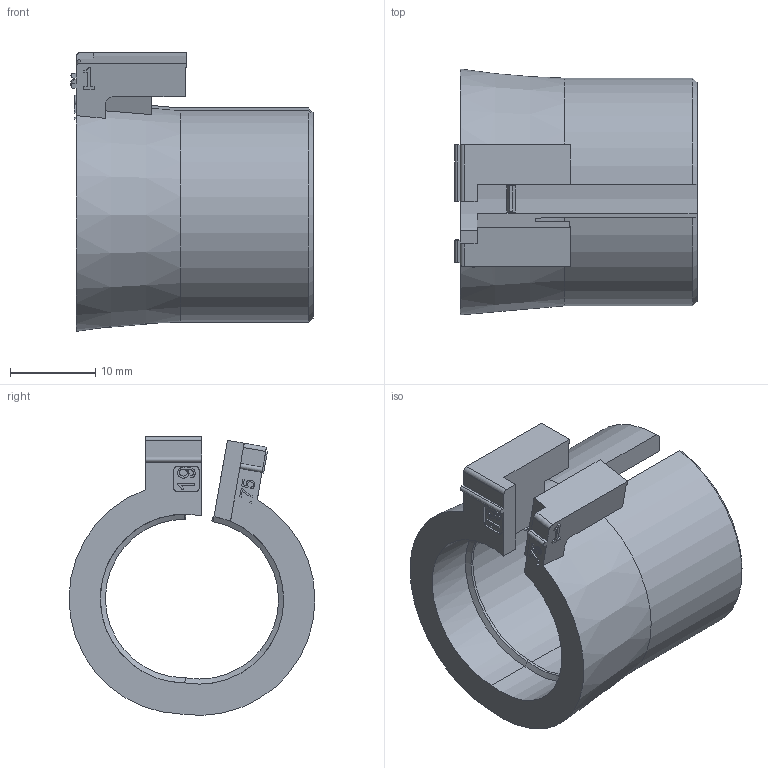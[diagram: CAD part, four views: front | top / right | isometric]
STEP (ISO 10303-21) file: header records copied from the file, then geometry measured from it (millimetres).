
FILE_DESCRIPTION(/* description */ (''),/* implementation_level */ '2;1');
FILE_NAME(/* name */ 'C:\SapWorkDir\Inventor\MP1\ConvertTempPath\87_12_121363_00_A_220530_KDT-X 19.stp',/* time_stamp */ '2022-05-31T13:27:53+02:00',/* author */ ('BAUER'),/* organization */ (''),/* preprocessor_version */ 'ST-DEVELOPER v16.13',/* originating_system */ 'Autodesk Inventor 2018',/* authorisation */ '');
FILE_SCHEMA (('AUTOMOTIVE_DESIGN { 1 0 10303 214 3 1 1 }'));
Length unit declared in the file: millimetre
Products named in the file (1): 121363
Bounding box: 28.4 x 28.86 x 32.72 mm (x, y, z)
Volume: 6211.8 mm3; surface area: 5127.5 mm2
Topology: 1 solids, 1 shells, 149 faces, 399 edges, 260 vertices
Faces by surface type: plane 90, bspline 27, cylinder 24, cone 8
Entity records: 4883 total; most frequent: CARTESIAN_POINT 1151, ORIENTED_EDGE 798, DIRECTION 642, EDGE_CURVE 399, LINE 280, VECTOR 280, VERTEX_POINT 260, AXIS2_PLACEMENT_3D 181
